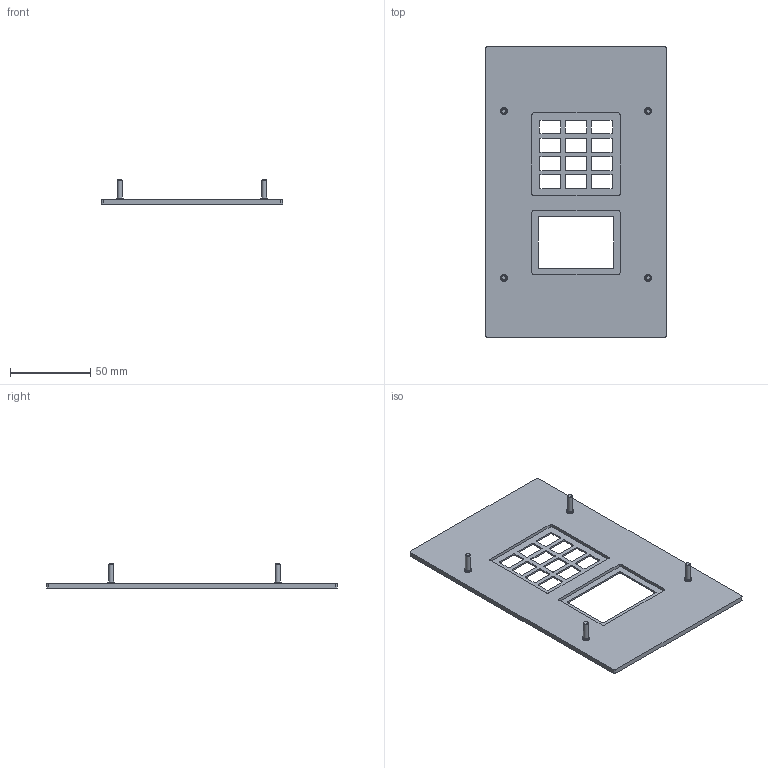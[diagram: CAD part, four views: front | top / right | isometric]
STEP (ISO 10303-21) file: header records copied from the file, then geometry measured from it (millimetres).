
FILE_DESCRIPTION(/* description */ (''),/* implementation_level */ '2;1');
FILE_NAME(/* name */ 'A1121E_Engineering Edition Front panel.stp',/* time_stamp */ '2024-05-21T09:42:01+02:00',/* author */ ('darwyr'),/* organization */ (''),/* preprocessor_version */ 'ST-DEVELOPER v19.2',/* originating_system */ 'Autodesk Inventor 2023',/* authorisation */ '');
FILE_SCHEMA (('AUTOMOTIVE_DESIGN { 1 0 10303 214 3 1 1 }'));
Length unit declared in the file: millimetre
Products named in the file (1): BHA_A_1042_Rev06 Engineering Edition Frontplate
Bounding box: 113 x 181 x 15 mm (x, y, z)
Volume: 48756.1 mm3; surface area: 38801.1 mm2
Topology: 1 solids, 1 shells, 152 faces, 420 edges, 280 vertices
Faces by surface type: plane 76, cylinder 72, cone 4
Full cylindrical faces by diameter (mm): 3 x4, 4.5 x4
Entity records: 5124 total; most frequent: DIRECTION 878, CARTESIAN_POINT 853, ORIENTED_EDGE 840, EDGE_CURVE 420, AXIS2_PLACEMENT_3D 305, VERTEX_POINT 280, LINE 268, VECTOR 268
